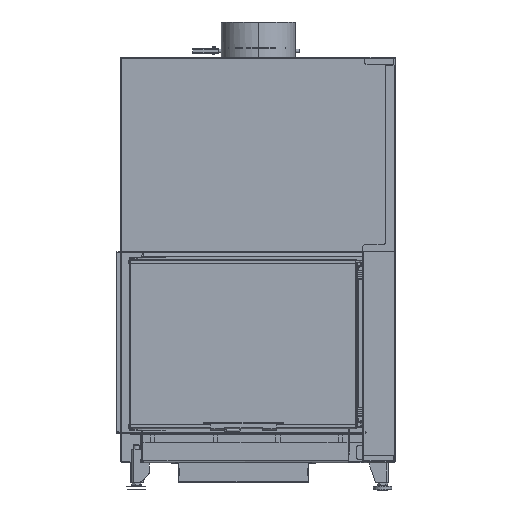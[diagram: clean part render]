
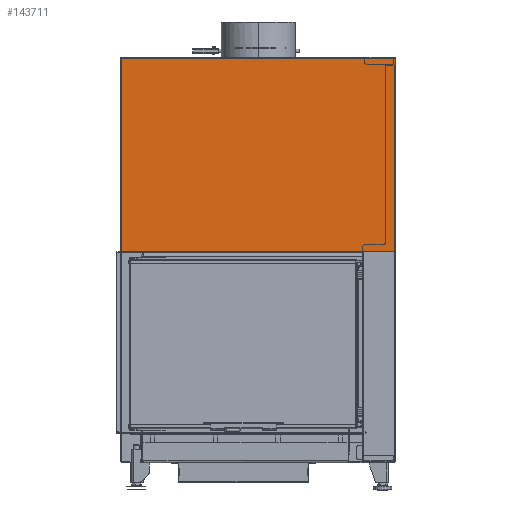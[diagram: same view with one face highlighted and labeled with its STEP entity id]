
A CAD part, front view. The second image highlights one B-rep face of the part: STEP entity #143711.
In plain terms, the highlighted planar face has unit normal (0, -1, 0).
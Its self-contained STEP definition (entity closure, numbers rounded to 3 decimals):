
#8817=CIRCLE('',#153046,0.1);
#8819=CIRCLE('',#153051,3.);
#10428=CIRCLE('',#156581,3.);
#17361=FACE_OUTER_BOUND('',#25149,.T.);
#25149=EDGE_LOOP('',(#118094,#118095,#118096,#118097,#118098,#118099,#118100,
#118101,#118102,#118103,#118104));
#34011=LINE('',#224858,#46898);
#34015=LINE('',#224867,#46902);
#34017=LINE('',#224871,#46904);
#37414=LINE('',#237295,#50301);
#37422=LINE('',#237312,#50309);
#37423=LINE('',#237315,#50310);
#37424=LINE('',#237317,#50311);
#37425=LINE('',#237318,#50312);
#46898=VECTOR('',#181341,10.);
#46902=VECTOR('',#181351,10.);
#46904=VECTOR('',#181355,10.);
#50301=VECTOR('',#191812,10.);
#50309=VECTOR('',#191824,10.);
#50310=VECTOR('',#191827,10.);
#50311=VECTOR('',#191828,10.);
#50312=VECTOR('',#191829,10.);
#59690=VERTEX_POINT('',#224855);
#59691=VERTEX_POINT('',#224857);
#59692=VERTEX_POINT('',#224861);
#59693=VERTEX_POINT('',#224865);
#59694=VERTEX_POINT('',#224869);
#59696=VERTEX_POINT('',#224875);
#62975=VERTEX_POINT('',#237292);
#62976=VERTEX_POINT('',#237294);
#62983=VERTEX_POINT('',#237311);
#62984=VERTEX_POINT('',#237314);
#62985=VERTEX_POINT('',#237316);
#76532=EDGE_CURVE('',#59690,#59691,#34011,.T.);
#76535=EDGE_CURVE('',#59692,#59690,#8817,.T.);
#76537=EDGE_CURVE('',#59693,#59692,#34015,.T.);
#76539=EDGE_CURVE('',#59694,#59693,#34017,.T.);
#76542=EDGE_CURVE('',#59694,#59696,#8819,.T.);
#81780=EDGE_CURVE('',#62975,#62976,#37414,.T.);
#81788=EDGE_CURVE('',#62983,#59696,#37422,.T.);
#81789=EDGE_CURVE('',#62983,#62976,#10428,.T.);
#81790=EDGE_CURVE('',#62984,#62975,#37423,.T.);
#81791=EDGE_CURVE('',#62985,#62984,#37424,.T.);
#81792=EDGE_CURVE('',#59691,#62985,#37425,.T.);
#118094=ORIENTED_EDGE('',*,*,#76542,.T.);
#118095=ORIENTED_EDGE('',*,*,#81788,.F.);
#118096=ORIENTED_EDGE('',*,*,#81789,.T.);
#118097=ORIENTED_EDGE('',*,*,#81780,.F.);
#118098=ORIENTED_EDGE('',*,*,#81790,.F.);
#118099=ORIENTED_EDGE('',*,*,#81791,.F.);
#118100=ORIENTED_EDGE('',*,*,#81792,.F.);
#118101=ORIENTED_EDGE('',*,*,#76532,.F.);
#118102=ORIENTED_EDGE('',*,*,#76535,.F.);
#118103=ORIENTED_EDGE('',*,*,#76537,.F.);
#118104=ORIENTED_EDGE('',*,*,#76539,.F.);
#129568=PLANE('',#156580);
#143711=ADVANCED_FACE('',(#17361),#129568,.F.);
#153046=AXIS2_PLACEMENT_3D('',#224863,#181346,#181347);
#153051=AXIS2_PLACEMENT_3D('',#224877,#181361,#181362);
#156580=AXIS2_PLACEMENT_3D('',#237310,#191822,#191823);
#156581=AXIS2_PLACEMENT_3D('',#237313,#191825,#191826);
#181341=DIRECTION('',(0.,0.,-1.));
#181346=DIRECTION('center_axis',(0.,-1.,
0.));
#181347=DIRECTION('ref_axis',(-1.,0.,0.));
#181351=DIRECTION('',(0.,0.,1.));
#181355=DIRECTION('',(-1.,0.,0.));
#181361=DIRECTION('center_axis',(0.,-1.,
0.));
#181362=DIRECTION('ref_axis',(0.707,0.,-0.707));
#191812=DIRECTION('',(1.,0.,0.));
#191822=DIRECTION('center_axis',(0.,1.,
0.));
#191823=DIRECTION('ref_axis',(-1.,0.,0.));
#191824=DIRECTION('',(0.,0.,-1.));
#191825=DIRECTION('center_axis',(0.,-1.,
0.));
#191826=DIRECTION('ref_axis',(0.707,0.,0.707));
#191827=DIRECTION('',(1.,0.,0.));
#191828=DIRECTION('',(0.,0.,1.));
#191829=DIRECTION('',(-1.,0.,0.));
#224855=CARTESIAN_POINT('',(-87.4,-59.998,582.359));
#224857=CARTESIAN_POINT('',(-87.4,-59.998,582.259));
#224858=CARTESIAN_POINT('',(-87.4,-59.994,715.947));
#224861=CARTESIAN_POINT('',(-87.2,-59.998,582.359));
#224863=CARTESIAN_POINT('Origin',(-87.3,-59.998,582.359));
#224865=CARTESIAN_POINT('',(-87.2,-59.998,582.259));
#224867=CARTESIAN_POINT('',(-87.2,-59.994,715.997));
#224869=CARTESIAN_POINT('',(-3.,-59.998,582.259));
#224871=CARTESIAN_POINT('',(0.,-59.998,582.259));
#224875=CARTESIAN_POINT('',(0.,-59.998,585.259));
#224877=CARTESIAN_POINT('Origin',(-3.,-59.998,585.259));
#237292=CARTESIAN_POINT('',(-84.15,-59.983,1114.259));
#237294=CARTESIAN_POINT('',(-3.,-59.983,1114.259));
#237295=CARTESIAN_POINT('',(-84.15,-59.983,1114.259));
#237310=CARTESIAN_POINT('Origin',(-420.775,-59.99,849.634));
#237311=CARTESIAN_POINT('',(0.,-59.983,1111.259));
#237312=CARTESIAN_POINT('',(0.,-59.983,1114.259));
#237313=CARTESIAN_POINT('Origin',(-3.,-59.983,1111.259));
#237314=CARTESIAN_POINT('',(-754.65,-59.983,1114.259));
#237315=CARTESIAN_POINT('',(-589.088,-59.983,1114.259));
#237316=CARTESIAN_POINT('',(-754.65,-59.998,582.259));
#237317=CARTESIAN_POINT('',(-754.65,-59.994,715.947));
#237318=CARTESIAN_POINT('',(0.,-59.998,582.259));
